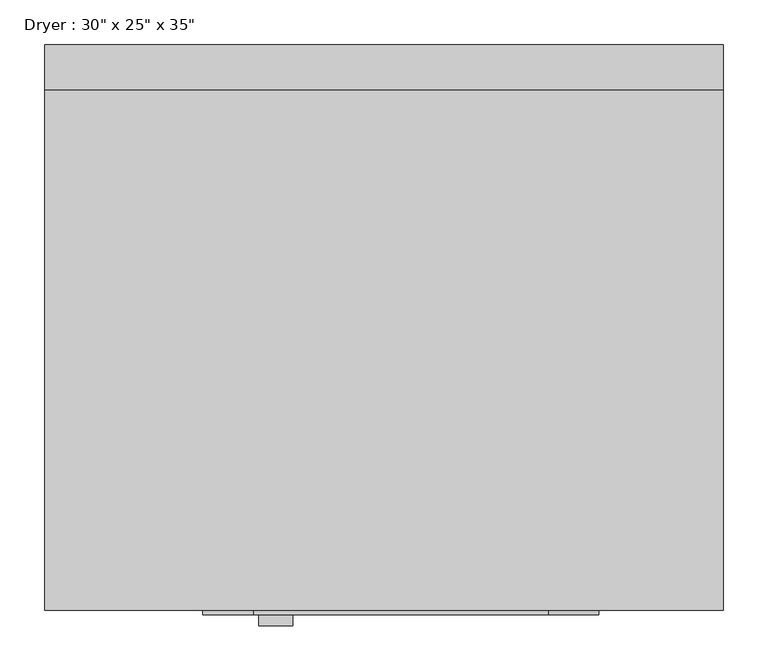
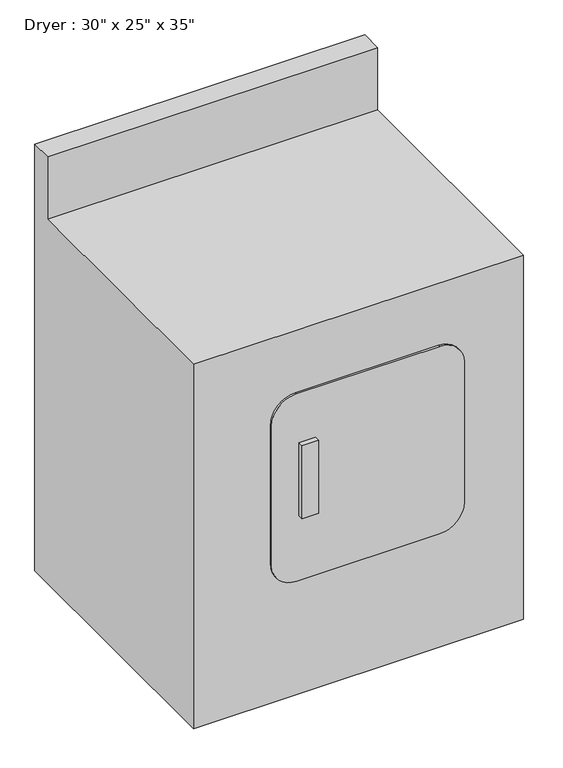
"""IFC4 building model written with IfcOpenShell, lengths in millimetres: proxy geometry."""

from ifc_helpers import new_model, si_unit, point, frame, frame_2d, origin, place, context, project, spatial, polyline, circle_curve, trimmed, segment, composite_curve, outline, extrude, source, transform, mapped, element, save


def proxy_6b4a07a9(model_context):
    return source(origin(), model_context, "Body", "SweptSolid", [
        extrude(outline(polyline([(314.8635206, -20.3014962), (276.7635206, -20.3014962), (276.7635206, -7.6014962), (314.8635206, -7.6014962), (314.8635206, -20.3014962)])), frame((0.0, 0.0, 438.7649313), z_axis=(0.0, 0.0, 1.0), x_axis=(1.0, 0.0, 0.0)), (0.0, 0.0, 1.0), 177.8),
        extrude(outline(composite_curve([segment(polyline([(737.623844, 601.2374563), (737.623844, 271.0374563)]), True, "CONTINUOUS"), segment(trimmed(circle_curve(frame_2d((680.473844, 271.0374563)), 57.15), [point((737.623844, 271.0374563))], [point((680.473844, 213.8874563))], False, "CARTESIAN"), True, "CONTINUOUS"), segment(polyline([(680.473844, 213.8874563), (337.573844, 213.8874563)]), True, "CONTINUOUS"), segment(trimmed(circle_curve(frame_2d((337.573844, 271.0374563)), 57.15), [point((337.573844, 213.8874563))], [point((280.423844, 271.0374563))], False, "CARTESIAN"), True, "CONTINUOUS"), segment(polyline([(280.423844, 271.0374563), (280.423844, 601.2374563)]), True, "CONTINUOUS"), segment(trimmed(circle_curve(frame_2d((337.573844, 601.2374563)), 57.15), [point((280.423844, 601.2374563))], [point((337.573844, 658.3874563))], False, "CARTESIAN"), True, "CONTINUOUS"), segment(polyline([(337.573844, 658.3874563), (680.473844, 658.3874563)]), True, "CONTINUOUS"), segment(trimmed(circle_curve(frame_2d((680.473844, 601.2374563)), 57.15), [point((680.473844, 658.3874563))], [point((737.623844, 601.2374563))], False, "CARTESIAN"), True, "CONTINUOUS")], self_intersect=False)), frame((0.0, -7.6014962, 0.0), z_axis=(0.0, 1.0, 0.0), x_axis=(0.0, 0.0, 1.0)), (0.0, 0.0, 1.0), 4.7625),
        extrude(outline(polyline([(632.1610038, 0.0), (-2.8389962, 0.0), (-2.8389962, 889.0), (581.3610038, 889.0), (581.3610038, 1041.4), (632.1610038, 1041.4), (632.1610038, 0.0)])), frame((36.0874563, 0.0, 0.0), z_axis=(1.0, 0.0, 0.0), x_axis=(0.0, 1.0, 0.0)), (0.0, 0.0, 1.0), 762.0),
    ])


if __name__ == "__main__":
    model = new_model("IFC4")
    model_context = context("Model", 3, world=origin())
    ifc_project = project(units=[si_unit("LENGTHUNIT", "METRE", prefix="MILLI")], contexts=[model_context])
    site = spatial("IfcSite", under=ifc_project)
    building = spatial("IfcBuilding", under=site)
    placement = place(None, origin())
    proxy_shape = proxy_6b4a07a9(model_context)
    element("IfcBuildingElementProxy", 1, Name="Dryer : 30\" x 25\" x 35\"", ObjectType="Dryer : 30\" x 25\" x 35\"", at=placement, inside=building, context=model_context, shape_type="MappedRepresentation", body=[
        mapped(proxy_shape, transform((0.0, 0.0, 0.0), x_axis=(1.0, 0.0, 0.0), y_axis=(0.0, 1.0, 0.0), z_axis=(0.0, 0.0, 1.0))),
    ])
    save(model, "model.ifc")
